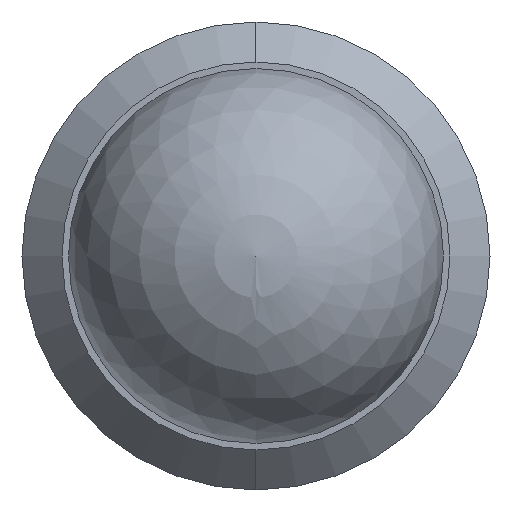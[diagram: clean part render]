
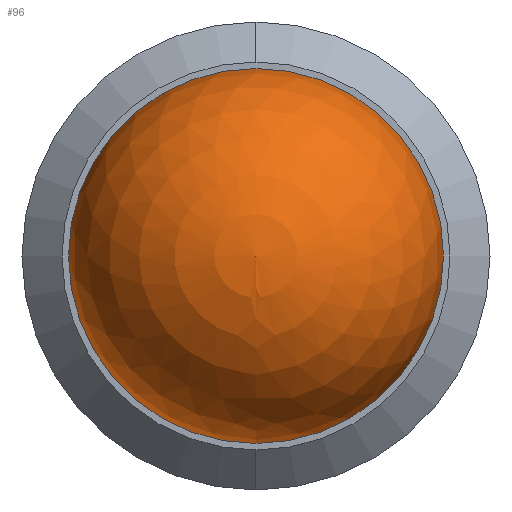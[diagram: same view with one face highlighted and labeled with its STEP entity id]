
A CAD part, left-side view. The second image highlights one B-rep face of the part: STEP entity #96.
In plain terms, the highlighted spherical face has radius 1.191 mm.
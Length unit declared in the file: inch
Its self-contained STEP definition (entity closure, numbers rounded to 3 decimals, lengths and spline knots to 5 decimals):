
#35 = EDGE_CURVE ( 'NONE', #508, #586, #106, .T. ) ;
#38 = EDGE_CURVE ( 'NONE', #508, #586, #360, .T. ) ;
#42 = CARTESIAN_POINT ( 'NONE',  ( 0., -0.04688, 0. ) ) ;
#62 = EDGE_LOOP ( 'NONE', ( #273, #151 ) ) ;
#63 = FACE_OUTER_BOUND ( 'NONE', #62, .T. ) ;
#96 = ADVANCED_FACE ( 'NONE', ( #63 ), #542, .T. ) ;
#106 = CIRCLE ( 'NONE', #374, 0.04688 ) ;
#151 = ORIENTED_EDGE ( 'NONE', *, *, #35, .T. ) ;
#191 = DIRECTION ( 'NONE',  ( 1., 0., 0. ) ) ;
#198 = DIRECTION ( 'NONE',  ( 0., 0., -1. ) ) ;
#212 = CARTESIAN_POINT ( 'NONE',  ( 0., 0., 0. ) ) ;
#226 = AXIS2_PLACEMENT_3D ( 'NONE', #212, #191, #198 ) ;
#254 = CARTESIAN_POINT ( 'NONE',  ( 0., 0.04688, 0. ) ) ;
#273 = ORIENTED_EDGE ( 'NONE', *, *, #38, .F. ) ;
#307 = DIRECTION ( 'NONE',  ( 0., 0., -1. ) ) ;
#350 = CARTESIAN_POINT ( 'NONE',  ( 0., 0., 0. ) ) ;
#360 = CIRCLE ( 'NONE', #366, 0.04688 ) ;
#362 = CARTESIAN_POINT ( 'NONE',  ( 0., 0., 0. ) ) ;
#366 = AXIS2_PLACEMENT_3D ( 'NONE', #362, #373, #307 ) ;
#373 = DIRECTION ( 'NONE',  ( 1., 0., 0. ) ) ;
#374 = AXIS2_PLACEMENT_3D ( 'NONE', #350, #403, #492 ) ;
#403 = DIRECTION ( 'NONE',  ( -1., 0., 0. ) ) ;
#492 = DIRECTION ( 'NONE',  ( 0., 0., 1. ) ) ;
#508 = VERTEX_POINT ( 'NONE', #254 ) ;
#542 = SPHERICAL_SURFACE ( 'NONE', #226, 0.04688 ) ;
#586 = VERTEX_POINT ( 'NONE', #42 ) ;
